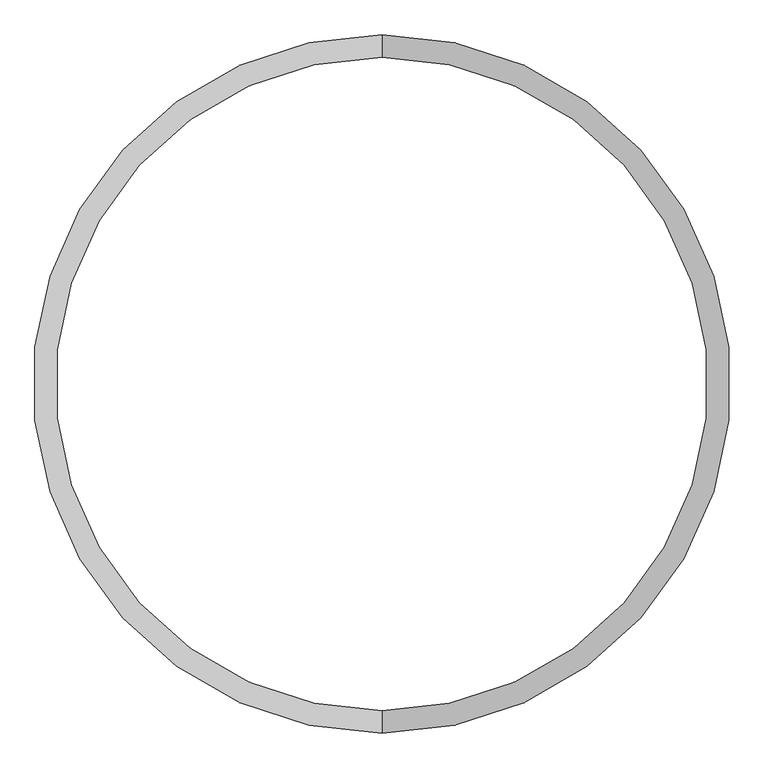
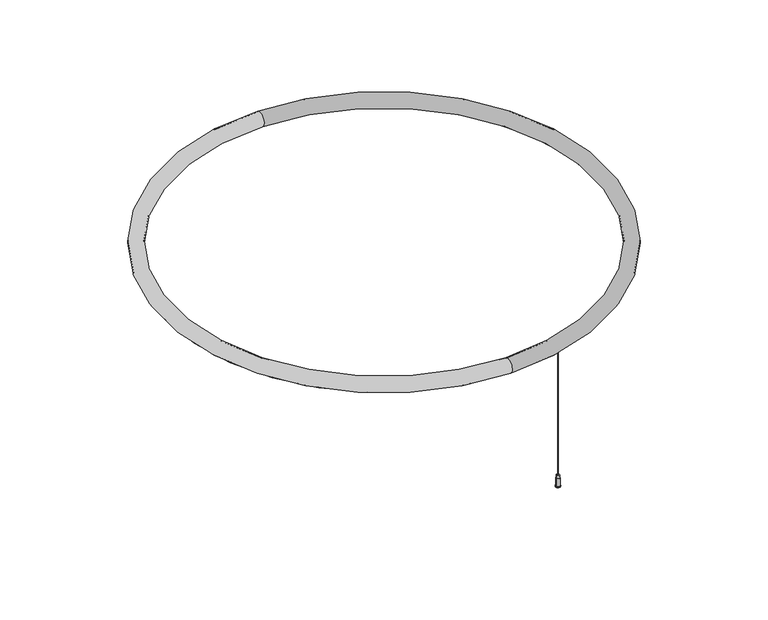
"""IFC4 building model written with IfcOpenShell, lengths in millimetres: light fixture geometry, ARTEMIDE-AoL-StandAlone-Circular_Suspended : StandALone_Suspended_Circular-1550mm 10740lm 3000K."""

from ifc_helpers import new_model, si_unit, point, frame, frame_2d, origin, origin_with_axes, place, context, project, spatial, polyline, circle_curve, ellipse_curve, trimmed, segment, composite_curve, outline, extrude, source, transform, mapped, element, save
from ifc_brep_helpers import plane_surface, cylinder_surface, revolved_surface, advanced_brep


def light_fixture_c5a6b05f(model_context):
    return source(origin(), model_context, "Body", "SolidModel", [
        advanced_brep(
        [(939.0, -726.0, 41.0209548), (937.0, -726.0, 41.0209548), (932.5097745, -726.0, 41.0209548), (943.4902255, -726.0, 41.0209548), (939.0, -726.0, 0.0), (937.0, -726.0, 0.0), (946.5523699, -726.0, 0.0), (929.4476301, -726.0, 0.0), (946.5523699, -726.0, 2.0209548), (929.4476301, -726.0, 2.0209548), (944.5523699, -726.0, 2.0209548), (931.4476301, -726.0, 2.0209548), (944.5523699, -726.0, 30.9721976), (931.4476301, -726.0, 30.9721976), (943.4902255, -726.0, 30.9721976), (932.5097745, -726.0, 30.9721976)],
        [
            (0, 1, circle_curve(frame((938.0, -726.0, 41.0209548), z_axis=(0.0, 0.0, -1.0), x_axis=(-1.0, 0.0, 0.0)), 1.0)),
            (1, 2),
            (2, 3, circle_curve(frame((938.0, -726.0, 41.0209548), z_axis=(0.0, 0.0, 1.0), x_axis=(-1.0, 0.0, 0.0)), 5.4902255)),
            (3, 0),
            (1, 0, circle_curve(frame((938.0, -726.0, 41.0209548), z_axis=(0.0, 0.0, -1.0), x_axis=(-1.0, 0.0, 0.0)), 1.0)),
            (3, 2, circle_curve(frame((938.0, -726.0, 41.0209548), z_axis=(0.0, 0.0, 1.0), x_axis=(-1.0, 0.0, 0.0)), 5.4902255)),
            (4, 5, circle_curve(frame((938.0, -726.0, 0.0), z_axis=(0.0, 0.0, -1.0), x_axis=(-1.0, 0.0, 0.0)), 1.0)),
            (5, 1),
            (0, 4),
            (5, 4, circle_curve(frame((938.0, -726.0, 0.0), z_axis=(0.0, 0.0, -1.0), x_axis=(-1.0, 0.0, 0.0)), 1.0)),
            (6, 7, circle_curve(frame((938.0, -726.0, 0.0), z_axis=(0.0, 0.0, -1.0), x_axis=(-1.0, 0.0, 0.0)), 8.5523699)),
            (7, 5),
            (4, 6),
            (7, 6, circle_curve(frame((938.0, -726.0, 0.0), z_axis=(0.0, 0.0, -1.0), x_axis=(-1.0, 0.0, 0.0)), 8.5523699)),
            (8, 9, circle_curve(frame((938.0, -726.0, 2.0209548), z_axis=(0.0, 0.0, -1.0), x_axis=(-1.0, 0.0, 0.0)), 8.5523699)),
            (9, 7),
            (6, 8),
            (9, 8, circle_curve(frame((938.0, -726.0, 2.0209548), z_axis=(0.0, 0.0, -1.0), x_axis=(-1.0, 0.0, 0.0)), 8.5523699)),
            (10, 11, circle_curve(frame((938.0, -726.0, 2.0209548), z_axis=(0.0, 0.0, -1.0), x_axis=(-1.0, 0.0, 0.0)), 6.5523699)),
            (11, 9),
            (8, 10),
            (11, 10, circle_curve(frame((938.0, -726.0, 2.0209548), z_axis=(0.0, 0.0, -1.0), x_axis=(-1.0, 0.0, 0.0)), 6.5523699)),
            (12, 13, circle_curve(frame((938.0, -726.0, 30.9721976), z_axis=(0.0, 0.0, -1.0), x_axis=(-1.0, 0.0, 0.0)), 6.5523699)),
            (13, 11),
            (10, 12),
            (13, 12, circle_curve(frame((938.0, -726.0, 30.9721976), z_axis=(0.0, 0.0, -1.0), x_axis=(-1.0, 0.0, 0.0)), 6.5523699)),
            (14, 15, circle_curve(frame((938.0, -726.0, 30.9721976), z_axis=(0.0, 0.0, -1.0), x_axis=(-1.0, 0.0, 0.0)), 5.4902255)),
            (15, 13),
            (12, 14),
            (15, 14, circle_curve(frame((938.0, -726.0, 30.9721976), z_axis=(0.0, 0.0, -1.0), x_axis=(-1.0, 0.0, 0.0)), 5.4902255)),
            (2, 15),
            (14, 3),
        ],
        [
            plane_surface(frame((938.0, -726.0, 41.0209548), z_axis=(0.0, 0.0, 1.0), x_axis=(-1.0, 0.0, 0.0))),
            revolved_surface(polyline([(937.0, -726.0, 41.02095480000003), (937.0, -726.0, 0.0)]), (938.0, -726.0, 391.16642), (0.0, 0.0, 1.0)),
            plane_surface(frame((938.0, -726.0, 0.0), z_axis=(0.0, 0.0, -1.0), x_axis=(-1.0, 0.0, 0.0))),
            cylinder_surface(frame((938.0, -726.0, 391.16642), z_axis=(0.0, 0.0, 1.0), x_axis=(-1.0, 0.0, 0.0)), 8.5523699),
            plane_surface(frame((938.0, -726.0, 2.0209548), z_axis=(0.0, 0.0, 1.0), x_axis=(-1.0, 0.0, 0.0))),
            cylinder_surface(frame((938.0, -726.0, 391.16642), z_axis=(0.0, 0.0, 1.0), x_axis=(-1.0, 0.0, 0.0)), 6.5523699),
            plane_surface(frame((938.0, -726.0, 30.9721976), z_axis=(0.0, 0.0, 1.0), x_axis=(-1.0, 0.0, 0.0))),
            cylinder_surface(frame((938.0, -726.0, 391.16642), z_axis=(0.0, 0.0, 1.0), x_axis=(-1.0, 0.0, 0.0)), 5.4902255),
        ],
        [
            (0, [[1, 2, 3, 4]]),
            (0, [[5, -4, 6, -2]]),
            (1, [[7, 8, -1, 9]]),
            (1, [[10, -9, -5, -8]]),
            (2, [[11, 12, -7, 13]]),
            (2, [[14, -13, -10, -12]]),
            (3, [[15, 16, -11, 17]]),
            (3, [[18, -17, -14, -16]]),
            (4, [[19, 20, -15, 21]]),
            (4, [[22, -21, -18, -20]]),
            (5, [[23, 24, -19, 25]]),
            (5, [[26, -25, -22, -24]]),
            (6, [[27, 28, -23, 29]]),
            (6, [[30, -29, -26, -28]]),
            (7, [[-3, 31, -27, 32]]),
            (7, [[-6, -32, -30, -31]]),
        ],
    ),
        extrude(outline(composite_curve([segment(trimmed(circle_curve(frame_2d((938.0, -726.0)), 0.8), [point((937.2, -726.0))], [point((938.8, -726.0))], False, "CARTESIAN"), True, "CONTINUOUS"), segment(trimmed(circle_curve(frame_2d((938.0, -726.0)), 0.8), [point((938.8, -726.0))], [point((937.2, -726.0))], False, "CARTESIAN"), True, "CONTINUOUS")], self_intersect=False)), origin_with_axes(), (0.0, 0.0, 1.0), 500.0),
        advanced_brep(
        [(750.3445739, -738.1969999, 502.9151372), (750.3445739, 738.3030001, 502.9151372), (750.3445739, 761.8030001, 502.9151372), (750.3445739, -761.6969999, 502.9151372), (750.3445739, -738.1969999, 507.2410096), (750.3445739, 738.3030001, 507.2410096), (750.3445739, -736.2792459, 505.8106819), (750.3445739, 736.3852461, 505.8106819), (750.3445739, 736.3852461, 507.2410096), (750.3445739, -736.2792459, 507.2410096), (750.3445739, -734.3292459, 507.2258724), (750.3445739, 734.4352461, 507.2258724), (750.3445739, -734.3292459, 509.2258716), (750.3445739, 734.4352461, 509.2258716), (750.3445739, -737.2792459, 510.7258716), (750.3445739, 737.3852461, 510.7258716), (750.3445739, 737.3852461, 509.2258716), (750.3445739, -737.2792459, 509.2258716), (750.3445739, -767.2249794, 510.7258716), (750.3445739, 767.3309795, 510.7258716), (750.3445739, 732.7750206, 510.7258716), (750.3445739, -732.6690205, 510.7258716), (750.3445739, -762.6147539, 509.2258716), (750.3445739, 762.7207541, 509.2258716), (750.3445739, 762.7207541, 510.7258716), (750.3445739, -762.6147539, 510.7258716), (750.3445739, -765.5647539, 507.2258724), (750.3445739, 765.6707541, 507.2258724), (750.3445739, 765.6707541, 509.2258716), (750.3445739, -765.5647539, 509.2258716), (750.3445739, -763.6147539, 505.8106819), (750.3445739, 763.7207541, 505.8106819), (750.3445739, -763.6147539, 507.2410096), (750.3445739, 763.7207541, 507.2410096), (750.3445739, 761.8030001, 507.2410096), (750.3445739, -761.6969999, 507.2410096)],
        [
            (0, 1, circle_curve(frame((750.3445739, 0.0530001, 502.9151372), z_axis=(0.0, 0.0, -1.0), x_axis=(0.0, 1.0, 0.0)), 738.25)),
            (1, 2, circle_curve(frame((750.3445739, 750.0530001, 524.9817976), z_axis=(-1.0, 0.0, 0.0), x_axis=(0.0, -1.0, 0.0)), 25.0)),
            (2, 3, circle_curve(frame((750.3445739, 0.0530001, 502.9151372), z_axis=(0.0, 0.0, 1.0), x_axis=(0.0, 1.0, 0.0)), 761.75)),
            (3, 0, circle_curve(frame((750.3445739, -749.9469999, 524.9817976), z_axis=(-1.0, 0.0, 0.0), x_axis=(0.0, 1.0, 0.0)), 25.0)),
            (4, 5, circle_curve(frame((750.3445739, 0.0530001, 507.2410096), z_axis=(0.0, 0.0, -1.0), x_axis=(0.0, 1.0, 0.0)), 738.25)),
            (5, 1),
            (0, 4),
            (6, 7, circle_curve(frame((750.3445739, 0.0530001, 505.8106819), z_axis=(0.0, 0.0, -1.0), x_axis=(0.0, 1.0, 0.0)), 736.332246)),
            (7, 8),
            (8, 9, circle_curve(frame((750.3445739, 0.0530001, 507.2410096), z_axis=(0.0, 0.0, 1.0), x_axis=(0.0, 1.0, 0.0)), 736.332246)),
            (9, 6),
            (10, 11, circle_curve(frame((750.3445739, 0.0530001, 507.2258724), z_axis=(0.0, 0.0, -1.0), x_axis=(0.0, 1.0, 0.0)), 734.382246)),
            (11, 7),
            (6, 10),
            (12, 13, circle_curve(frame((750.3445739, 0.0530001, 509.2258716), z_axis=(0.0, 0.0, -1.0), x_axis=(0.0, 1.0, 0.0)), 734.382246)),
            (13, 11),
            (10, 12),
            (14, 15, circle_curve(frame((750.3445739, 0.0530001, 510.7258716), z_axis=(0.0, 0.0, -1.0), x_axis=(0.0, 1.0, 0.0)), 737.332246)),
            (15, 16),
            (16, 17, circle_curve(frame((750.3445739, 0.0530001, 509.2258716), z_axis=(0.0, 0.0, 1.0), x_axis=(0.0, 1.0, 0.0)), 737.332246)),
            (17, 14),
            (18, 19, circle_curve(frame((750.3445739, 0.0530001, 510.7258716), z_axis=(0.0, 0.0, -1.0), x_axis=(0.0, 1.0, 0.0)), 767.2779794)),
            (19, 20, circle_curve(frame((750.3445739, 750.0530001, 524.9817976), z_axis=(1.0, 0.0, 0.0), x_axis=(0.0, -1.0, 0.0)), 22.4)),
            (20, 21, circle_curve(frame((750.3445739, 0.0530001, 510.7258716), z_axis=(0.0, 0.0, 1.0), x_axis=(0.0, 1.0, 0.0)), 732.7220206)),
            (21, 18, circle_curve(frame((750.3445739, -749.9469999, 524.9817976), z_axis=(1.0, 0.0, 0.0), x_axis=(0.0, 1.0, 0.0)), 22.4)),
            (22, 23, circle_curve(frame((750.3445739, 0.0530001, 509.2258716), z_axis=(0.0, 0.0, -1.0), x_axis=(0.0, 1.0, 0.0)), 762.667754)),
            (23, 24),
            (24, 25, circle_curve(frame((750.3445739, 0.0530001, 510.7258716), z_axis=(0.0, 0.0, 1.0), x_axis=(0.0, 1.0, 0.0)), 762.667754)),
            (25, 22),
            (26, 27, circle_curve(frame((750.3445739, 0.0530001, 507.2258724), z_axis=(0.0, 0.0, -1.0), x_axis=(0.0, 1.0, 0.0)), 765.617754)),
            (27, 28),
            (28, 29, circle_curve(frame((750.3445739, 0.0530001, 509.2258716), z_axis=(0.0, 0.0, 1.0), x_axis=(0.0, 1.0, 0.0)), 765.617754)),
            (29, 26),
            (30, 31, circle_curve(frame((750.3445739, 0.0530001, 505.8106819), z_axis=(0.0, 0.0, -1.0), x_axis=(0.0, 1.0, 0.0)), 763.667754)),
            (31, 27),
            (26, 30),
            (32, 33, circle_curve(frame((750.3445739, 0.0530001, 507.2410096), z_axis=(0.0, 0.0, -1.0), x_axis=(0.0, 1.0, 0.0)), 763.667754)),
            (33, 31),
            (30, 32),
            (2, 34),
            (34, 35, circle_curve(frame((750.3445739, 0.0530001, 507.2410096), z_axis=(0.0, 0.0, 1.0), x_axis=(0.0, 1.0, 0.0)), 761.75)),
            (35, 3),
            (1, 0, circle_curve(frame((750.3445739, 0.0530001, 502.9151372), z_axis=(0.0, 0.0, -1.0), x_axis=(0.0, -1.0, 0.0)), 738.25)),
            (3, 2, circle_curve(frame((750.3445739, 0.0530001, 502.9151372), z_axis=(0.0, 0.0, 1.0), x_axis=(0.0, -1.0, 0.0)), 761.75)),
            (5, 4, circle_curve(frame((750.3445739, 0.0530001, 507.2410096), z_axis=(0.0, 0.0, -1.0), x_axis=(0.0, -1.0, 0.0)), 738.25)),
            (8, 9, circle_curve(frame((750.3445739, 0.0530001, 507.2410096), z_axis=(0.0, 0.0, -1.0), x_axis=(0.0, -1.0, 0.0)), 736.332246)),
            (7, 6, circle_curve(frame((750.3445739, 0.0530001, 505.8106819), z_axis=(0.0, 0.0, -1.0), x_axis=(0.0, -1.0, 0.0)), 736.332246)),
            (11, 10, circle_curve(frame((750.3445739, 0.0530001, 507.2258724), z_axis=(0.0, 0.0, -1.0), x_axis=(0.0, -1.0, 0.0)), 734.382246)),
            (13, 12, circle_curve(frame((750.3445739, 0.0530001, 509.2258716), z_axis=(0.0, 0.0, -1.0), x_axis=(0.0, -1.0, 0.0)), 734.382246)),
            (16, 17, circle_curve(frame((750.3445739, 0.0530001, 509.2258716), z_axis=(0.0, 0.0, -1.0), x_axis=(0.0, -1.0, 0.0)), 737.332246)),
            (15, 14, circle_curve(frame((750.3445739, 0.0530001, 510.7258716), z_axis=(0.0, 0.0, -1.0), x_axis=(0.0, -1.0, 0.0)), 737.332246)),
            (20, 21, circle_curve(frame((750.3445739, 0.0530001, 510.7258716), z_axis=(0.0, 0.0, -1.0), x_axis=(0.0, -1.0, 0.0)), 732.7220206)),
            (19, 18, circle_curve(frame((750.3445739, 0.0530001, 510.7258716), z_axis=(0.0, 0.0, -1.0), x_axis=(0.0, -1.0, 0.0)), 767.2779794)),
            (24, 25, circle_curve(frame((750.3445739, 0.0530001, 510.7258716), z_axis=(0.0, 0.0, -1.0), x_axis=(0.0, -1.0, 0.0)), 762.667754)),
            (23, 22, circle_curve(frame((750.3445739, 0.0530001, 509.2258716), z_axis=(0.0, 0.0, -1.0), x_axis=(0.0, -1.0, 0.0)), 762.667754)),
            (28, 29, circle_curve(frame((750.3445739, 0.0530001, 509.2258716), z_axis=(0.0, 0.0, -1.0), x_axis=(0.0, -1.0, 0.0)), 765.617754)),
            (27, 26, circle_curve(frame((750.3445739, 0.0530001, 507.2258724), z_axis=(0.0, 0.0, -1.0), x_axis=(0.0, -1.0, 0.0)), 765.617754)),
            (31, 30, circle_curve(frame((750.3445739, 0.0530001, 505.8106819), z_axis=(0.0, 0.0, -1.0), x_axis=(0.0, -1.0, 0.0)), 763.667754)),
            (33, 32, circle_curve(frame((750.3445739, 0.0530001, 507.2410096), z_axis=(0.0, 0.0, -1.0), x_axis=(0.0, -1.0, 0.0)), 763.667754)),
            (34, 35, circle_curve(frame((750.3445739, 0.0530001, 507.2410096), z_axis=(0.0, 0.0, -1.0), x_axis=(0.0, -1.0, 0.0)), 761.75)),
        ],
        [
            revolved_surface(trimmed(ellipse_curve(frame((750.3445739, 750.0530001, 524.9817976), z_axis=(1.0, 0.0, 0.0), x_axis=(0.0, -1.0, 0.0)), 25.0, 25.0), [point((750.3445739, 761.8030001, 502.9151372))], [point((750.3445739, 738.3030001, 502.9151372))], True, "CARTESIAN"), (750.3445739, 0.0530001, 500.0), (0.0, 0.0, 1.0)),
            cylinder_surface(frame((750.3445739, 0.0530001, 500.0), z_axis=(0.0, 0.0, 1.0), x_axis=(0.0, 1.0, 0.0)), 738.25),
            revolved_surface(polyline([(750.3445739, 736.3852461, 507.2410096), (750.3445739, 736.3852461, 505.8106819)]), (750.3445739, 0.0530001, 500.0), (0.0, 0.0, 1.0)),
            revolved_surface(polyline([(750.3445739, 736.3852461, 505.8106819), (750.3445739, 734.4352461, 507.2258724)]), (750.3445739, 0.0530001, 500.0), (0.0, 0.0, 1.0)),
            cylinder_surface(frame((750.3445739, 0.0530001, 500.0), z_axis=(0.0, 0.0, 1.0), x_axis=(0.0, 1.0, 0.0)), 734.382246),
            cylinder_surface(frame((750.3445739, 0.0530001, 500.0), z_axis=(0.0, 0.0, 1.0), x_axis=(0.0, 1.0, 0.0)), 737.332246),
            revolved_surface(trimmed(ellipse_curve(frame((750.3445739, 750.0530001, 524.9817976), z_axis=(-1.0, 0.0, 0.0), x_axis=(0.0, -1.0, 0.0)), 22.4, 22.4), [point((750.3445739, 732.7750206, 510.7258716))], [point((750.3445739, 767.3309795, 510.7258716))], True, "CARTESIAN"), (750.3445739, 0.0530001, 500.0), (0.0, 0.0, 1.0)),
            revolved_surface(polyline([(750.3445739, 762.7207540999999, 510.7258716), (750.3445739, 762.7207540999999, 509.2258716)]), (750.3445739, 0.0530001, 500.0), (0.0, 0.0, 1.0)),
            revolved_surface(polyline([(750.3445739, 765.6707541, 509.2258716), (750.3445739, 765.6707541, 507.2258724)]), (750.3445739, 0.0530001, 500.0), (0.0, 0.0, 1.0)),
            revolved_surface(polyline([(750.3445739, 765.6707541, 507.2258724), (750.3445739, 763.7207541, 505.8106819)]), (750.3445739, 0.0530001, 500.0), (0.0, 0.0, 1.0)),
            cylinder_surface(frame((750.3445739, 0.0530001, 500.0), z_axis=(0.0, 0.0, 1.0), x_axis=(0.0, 1.0, 0.0)), 763.667754),
            revolved_surface(polyline([(750.3445739, 761.8030001, 507.2410096), (750.3445739, 761.8030001, 502.9151372)]), (750.3445739, 0.0530001, 500.0), (0.0, 0.0, 1.0)),
            revolved_surface(trimmed(ellipse_curve(frame((750.3445739, -749.9469999, 524.9817976), z_axis=(-1.0, 0.0, 0.0), x_axis=(0.0, 1.0, 0.0)), 25.0, 25.0), [point((750.3445739, -761.6969999, 502.9151372))], [point((750.3445739, -738.1969999, 502.9151372))], True, "CARTESIAN"), (750.3445739, 0.0530001, 500.0), (0.0, 0.0, 1.0)),
            cylinder_surface(frame((750.3445739, 0.0530001, 500.0), z_axis=(0.0, 0.0, 1.0), x_axis=(0.0, -1.0, 0.0)), 738.25),
            plane_surface(frame((750.3445739, 0.0530001, 507.2410096), z_axis=(0.0, 0.0, 1.0), x_axis=(0.0, -1.0, 0.0))),
            revolved_surface(polyline([(750.3445739, -736.2792459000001, 507.2410096), (750.3445739, -736.2792459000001, 505.8106819)]), (750.3445739, 0.0530001, 500.0), (0.0, 0.0, 1.0)),
            revolved_surface(polyline([(750.3445739, -736.2792459, 505.8106819), (750.3445739, -734.3292459, 507.2258724)]), (750.3445739, 0.0530001, 500.0), (0.0, 0.0, 1.0)),
            cylinder_surface(frame((750.3445739, 0.0530001, 500.0), z_axis=(0.0, 0.0, 1.0), x_axis=(0.0, -1.0, 0.0)), 734.382246),
            plane_surface(frame((750.3445739, 0.0530001, 509.2258716), z_axis=(0.0, 0.0, -1.0), x_axis=(0.0, -1.0, 0.0))),
            cylinder_surface(frame((750.3445739, 0.0530001, 500.0), z_axis=(0.0, 0.0, 1.0), x_axis=(0.0, -1.0, 0.0)), 737.332246),
            plane_surface(frame((750.3445739, 0.0530001, 510.7258716), z_axis=(0.0, 0.0, 1.0), x_axis=(0.0, -1.0, 0.0))),
            revolved_surface(trimmed(ellipse_curve(frame((750.3445739, -749.9469999, 524.9817976), z_axis=(1.0, 0.0, 0.0), x_axis=(0.0, 1.0, 0.0)), 22.4, 22.4), [point((750.3445739, -732.6690205, 510.7258716))], [point((750.3445739, -767.2249794, 510.7258716))], True, "CARTESIAN"), (750.3445739, 0.0530001, 500.0), (0.0, 0.0, 1.0)),
            revolved_surface(polyline([(750.3445739, -762.6147539, 510.7258716), (750.3445739, -762.6147539, 509.2258716)]), (750.3445739, 0.0530001, 500.0), (0.0, 0.0, 1.0)),
            revolved_surface(polyline([(750.3445739, -765.5647539, 509.2258716), (750.3445739, -765.5647539, 507.2258724)]), (750.3445739, 0.0530001, 500.0), (0.0, 0.0, 1.0)),
            revolved_surface(polyline([(750.3445739, -765.5647539, 507.2258724), (750.3445739, -763.6147539, 505.8106819)]), (750.3445739, 0.0530001, 500.0), (0.0, 0.0, 1.0)),
            cylinder_surface(frame((750.3445739, 0.0530001, 500.0), z_axis=(0.0, 0.0, 1.0), x_axis=(0.0, -1.0, 0.0)), 763.667754),
            revolved_surface(polyline([(750.3445739, -761.6969999, 507.2410096), (750.3445739, -761.6969999, 502.9151372)]), (750.3445739, 0.0530001, 500.0), (0.0, 0.0, 1.0)),
        ],
        [
            (0, [[1, 2, 3, 4]]),
            (1, [[5, 6, -1, 7]]),
            (2, [[8, 9, 10, 11]]),
            (3, [[12, 13, -8, 14]]),
            (4, [[15, 16, -12, 17]]),
            (5, [[18, 19, 20, 21]]),
            (6, [[22, 23, 24, 25]]),
            (7, [[26, 27, 28, 29]]),
            (8, [[30, 31, 32, 33]]),
            (9, [[34, 35, -30, 36]]),
            (10, [[37, 38, -34, 39]]),
            (11, [[-3, 40, 41, 42]]),
            (12, [[43, -4, 44, -2]]),
            (13, [[45, -7, -43, -6]]),
            (14, [[-45, -5], [46, -10]]),
            (15, [[47, -11, -46, -9]]),
            (16, [[48, -14, -47, -13]]),
            (17, [[49, -17, -48, -16]]),
            (18, [[50, -20], [-49, -15]]),
            (19, [[51, -21, -50, -19]]),
            (20, [[-51, -18], [52, -24]]),
            (21, [[53, -25, -52, -23]]),
            (20, [[-53, -22], [54, -28]]),
            (22, [[55, -29, -54, -27]]),
            (18, [[56, -32], [-55, -26]]),
            (23, [[57, -33, -56, -31]]),
            (24, [[58, -36, -57, -35]]),
            (25, [[59, -39, -58, -38]]),
            (14, [[-59, -37], [60, -41]]),
            (26, [[-44, -42, -60, -40]]),
        ],
    ),
        advanced_brep(
        [(750.3445739, -760.75, 502.9), (750.3445739, 762.75, 502.9), (750.3445739, 739.25, 502.9), (750.3445739, -737.25, 502.9), (750.3445739, -760.75, 507.2258724), (750.3445739, 762.75, 507.2258724), (750.3445739, -764.304087, 508.7526314), (750.3445739, 766.304087, 508.7526314), (750.3445739, 766.304087, 507.2258724), (750.3445739, -764.304087, 507.2258724), (750.3445739, -758.5062575, 514.3940086), (750.3445739, 760.5062575, 514.3940086), (750.3445739, 760.5062575, 508.7526314), (750.3445739, -758.5062575, 508.7526314), (750.3445739, -739.4937425, 508.7526314), (750.3445739, 741.4937425, 508.7526314), (750.3445739, 741.4937425, 514.3940086), (750.3445739, -739.4937425, 514.3940086), (750.3445739, -733.695913, 507.2258724), (750.3445739, 735.695913, 507.2258724), (750.3445739, 735.695913, 508.7526314), (750.3445739, -733.695913, 508.7526314), (750.3445739, 739.25, 507.2258724), (750.3445739, -737.25, 507.2258724)],
        [
            (0, 1, circle_curve(frame((750.3445739, 1.0, 502.9), z_axis=(0.0, 0.0, -1.0), x_axis=(0.0, 1.0, 0.0)), 761.75)),
            (1, 2, circle_curve(frame((750.3445739, 751.0, 524.9666604), z_axis=(-1.0, 0.0, 0.0), x_axis=(0.0, -1.0, 0.0)), 25.0)),
            (2, 3, circle_curve(frame((750.3445739, 1.0, 502.9), z_axis=(0.0, 0.0, 1.0), x_axis=(0.0, 1.0, 0.0)), 738.25)),
            (3, 0, circle_curve(frame((750.3445739, -749.0, 524.9666604), z_axis=(-1.0, 0.0, 0.0), x_axis=(0.0, 1.0, 0.0)), 25.0)),
            (4, 5, circle_curve(frame((750.3445739, 1.0, 507.2258724), z_axis=(0.0, 0.0, -1.0), x_axis=(0.0, 1.0, 0.0)), 761.75)),
            (5, 1),
            (0, 4),
            (6, 7, circle_curve(frame((750.3445739, 1.0, 508.7526314), z_axis=(0.0, 0.0, -1.0), x_axis=(0.0, 1.0, 0.0)), 765.304087)),
            (7, 8),
            (8, 9, circle_curve(frame((750.3445739, 1.0, 507.2258724), z_axis=(0.0, 0.0, 1.0), x_axis=(0.0, 1.0, 0.0)), 765.304087)),
            (9, 6),
            (10, 11, circle_curve(frame((750.3445739, 1.0, 514.3940086), z_axis=(0.0, 0.0, -1.0), x_axis=(0.0, 1.0, 0.0)), 759.5062575)),
            (11, 12),
            (12, 13, circle_curve(frame((750.3445739, 1.0, 508.7526314), z_axis=(0.0, 0.0, 1.0), x_axis=(0.0, 1.0, 0.0)), 759.5062575)),
            (13, 10),
            (14, 15, circle_curve(frame((750.3445739, 1.0, 508.7526314), z_axis=(0.0, 0.0, -1.0), x_axis=(0.0, 1.0, 0.0)), 740.4937425)),
            (15, 16),
            (16, 17, circle_curve(frame((750.3445739, 1.0, 514.3940086), z_axis=(0.0, 0.0, 1.0), x_axis=(0.0, 1.0, 0.0)), 740.4937425)),
            (17, 14),
            (18, 19, circle_curve(frame((750.3445739, 1.0, 507.2258724), z_axis=(0.0, 0.0, -1.0), x_axis=(0.0, 1.0, 0.0)), 734.695913)),
            (19, 20),
            (20, 21, circle_curve(frame((750.3445739, 1.0, 508.7526314), z_axis=(0.0, 0.0, 1.0), x_axis=(0.0, 1.0, 0.0)), 734.695913)),
            (21, 18),
            (2, 22),
            (22, 23, circle_curve(frame((750.3445739, 1.0, 507.2258724), z_axis=(0.0, 0.0, 1.0), x_axis=(0.0, 1.0, 0.0)), 738.25)),
            (23, 3),
            (1, 0, circle_curve(frame((750.3445739, 1.0, 502.9), z_axis=(0.0, 0.0, -1.0), x_axis=(0.0, -1.0, 0.0)), 761.75)),
            (3, 2, circle_curve(frame((750.3445739, 1.0, 502.9), z_axis=(0.0, 0.0, 1.0), x_axis=(0.0, -1.0, 0.0)), 738.25)),
            (5, 4, circle_curve(frame((750.3445739, 1.0, 507.2258724), z_axis=(0.0, 0.0, -1.0), x_axis=(0.0, -1.0, 0.0)), 761.75)),
            (8, 9, circle_curve(frame((750.3445739, 1.0, 507.2258724), z_axis=(0.0, 0.0, -1.0), x_axis=(0.0, -1.0, 0.0)), 765.304087)),
            (7, 6, circle_curve(frame((750.3445739, 1.0, 508.7526314), z_axis=(0.0, 0.0, -1.0), x_axis=(0.0, -1.0, 0.0)), 765.304087)),
            (12, 13, circle_curve(frame((750.3445739, 1.0, 508.7526314), z_axis=(0.0, 0.0, -1.0), x_axis=(0.0, -1.0, 0.0)), 759.5062575)),
            (11, 10, circle_curve(frame((750.3445739, 1.0, 514.3940086), z_axis=(0.0, 0.0, -1.0), x_axis=(0.0, -1.0, 0.0)), 759.5062575)),
            (16, 17, circle_curve(frame((750.3445739, 1.0, 514.3940086), z_axis=(0.0, 0.0, -1.0), x_axis=(0.0, -1.0, 0.0)), 740.4937425)),
            (15, 14, circle_curve(frame((750.3445739, 1.0, 508.7526314), z_axis=(0.0, 0.0, -1.0), x_axis=(0.0, -1.0, 0.0)), 740.4937425)),
            (20, 21, circle_curve(frame((750.3445739, 1.0, 508.7526314), z_axis=(0.0, 0.0, -1.0), x_axis=(0.0, -1.0, 0.0)), 734.695913)),
            (19, 18, circle_curve(frame((750.3445739, 1.0, 507.2258724), z_axis=(0.0, 0.0, -1.0), x_axis=(0.0, -1.0, 0.0)), 734.695913)),
            (22, 23, circle_curve(frame((750.3445739, 1.0, 507.2258724), z_axis=(0.0, 0.0, -1.0), x_axis=(0.0, -1.0, 0.0)), 738.25)),
        ],
        [
            revolved_surface(trimmed(ellipse_curve(frame((750.3445739, 751.0, 524.9666604), z_axis=(1.0, 0.0, 0.0), x_axis=(0.0, -1.0, 0.0)), 25.0, 25.0), [point((750.3445739, 739.25, 502.9))], [point((750.3445739, 762.75, 502.9))], True, "CARTESIAN"), (750.3445739, 1.0, 500.0), (0.0, 0.0, 1.0)),
            cylinder_surface(frame((750.3445739, 1.0, 500.0), z_axis=(0.0, 0.0, 1.0), x_axis=(0.0, 1.0, 0.0)), 761.75),
            cylinder_surface(frame((750.3445739, 1.0, 500.0), z_axis=(0.0, 0.0, 1.0), x_axis=(0.0, 1.0, 0.0)), 765.304087),
            cylinder_surface(frame((750.3445739, 1.0, 500.0), z_axis=(0.0, 0.0, 1.0), x_axis=(0.0, 1.0, 0.0)), 759.5062575),
            revolved_surface(polyline([(750.3445739, 741.4937425, 514.3940086), (750.3445739, 741.4937425, 508.7526314)]), (750.3445739, 1.0, 500.0), (0.0, 0.0, 1.0)),
            revolved_surface(polyline([(750.3445739, 735.695913, 508.7526314), (750.3445739, 735.695913, 507.2258724)]), (750.3445739, 1.0, 500.0), (0.0, 0.0, 1.0)),
            revolved_surface(polyline([(750.3445739, 739.25, 507.2258724), (750.3445739, 739.25, 502.9)]), (750.3445739, 1.0, 500.0), (0.0, 0.0, 1.0)),
            revolved_surface(trimmed(ellipse_curve(frame((750.3445739, -749.0, 524.9666604), z_axis=(-1.0, 0.0, 0.0), x_axis=(0.0, 1.0, 0.0)), 25.0, 25.0), [point((750.3445739, -737.25, 502.9))], [point((750.3445739, -760.75, 502.9))], True, "CARTESIAN"), (750.3445739, 1.0, 500.0), (0.0, 0.0, 1.0)),
            cylinder_surface(frame((750.3445739, 1.0, 500.0), z_axis=(0.0, 0.0, 1.0), x_axis=(0.0, -1.0, 0.0)), 761.75),
            plane_surface(frame((750.3445739, 1.0, 507.2258724), z_axis=(0.0, 0.0, -1.0), x_axis=(0.0, -1.0, 0.0))),
            cylinder_surface(frame((750.3445739, 1.0, 500.0), z_axis=(0.0, 0.0, 1.0), x_axis=(0.0, -1.0, 0.0)), 765.304087),
            plane_surface(frame((750.3445739, 1.0, 508.7526314), z_axis=(0.0, 0.0, 1.0), x_axis=(0.0, -1.0, 0.0))),
            cylinder_surface(frame((750.3445739, 1.0, 500.0), z_axis=(0.0, 0.0, 1.0), x_axis=(0.0, -1.0, 0.0)), 759.5062575),
            plane_surface(frame((750.3445739, 1.0, 514.3940086), z_axis=(0.0, 0.0, 1.0), x_axis=(0.0, -1.0, 0.0))),
            revolved_surface(polyline([(750.3445739, -739.4937425, 514.3940086), (750.3445739, -739.4937425, 508.7526314)]), (750.3445739, 1.0, 500.0), (0.0, 0.0, 1.0)),
            revolved_surface(polyline([(750.3445739, -733.695913, 508.7526314), (750.3445739, -733.695913, 507.2258724)]), (750.3445739, 1.0, 500.0), (0.0, 0.0, 1.0)),
            revolved_surface(polyline([(750.3445739, -737.25, 507.2258724), (750.3445739, -737.25, 502.9)]), (750.3445739, 1.0, 500.0), (0.0, 0.0, 1.0)),
        ],
        [
            (0, [[1, 2, 3, 4]]),
            (1, [[5, 6, -1, 7]]),
            (2, [[8, 9, 10, 11]]),
            (3, [[12, 13, 14, 15]]),
            (4, [[16, 17, 18, 19]]),
            (5, [[20, 21, 22, 23]]),
            (6, [[-3, 24, 25, 26]]),
            (7, [[27, -4, 28, -2]]),
            (8, [[29, -7, -27, -6]]),
            (9, [[30, -10], [-29, -5]]),
            (10, [[31, -11, -30, -9]]),
            (11, [[-31, -8], [32, -14]]),
            (12, [[33, -15, -32, -13]]),
            (13, [[-33, -12], [34, -18]]),
            (14, [[35, -19, -34, -17]]),
            (11, [[-35, -16], [36, -22]]),
            (15, [[37, -23, -36, -21]]),
            (9, [[38, -25], [-37, -20]]),
            (16, [[-28, -26, -38, -24]]),
        ],
    ),
    ])


if __name__ == "__main__":
    model = new_model("IFC4")
    model_context = context("Model", 3, world=origin())
    ifc_project = project(units=[si_unit("LENGTHUNIT", "METRE", prefix="MILLI")], contexts=[model_context])
    site = spatial("IfcSite", under=ifc_project)
    building = spatial("IfcBuilding", under=site)
    placement = place(None, origin())
    light_fixture_shape = light_fixture_c5a6b05f(model_context)
    element("IfcLightFixture", 1, ObjectType="ARTEMIDE-AoL-StandAlone-Circular_Suspended : StandALone_Suspended_Circular-1550mm 10740lm 3000K", at=placement, inside=building, context=model_context, shape_type="MappedRepresentation", body=[
        mapped(light_fixture_shape, transform((0.0, 0.0, 0.0), x_axis=(1.0, 0.0, 0.0), y_axis=(0.0, 1.0, 0.0), z_axis=(0.0, 0.0, 1.0))),
    ])
    save(model, "model.ifc")
